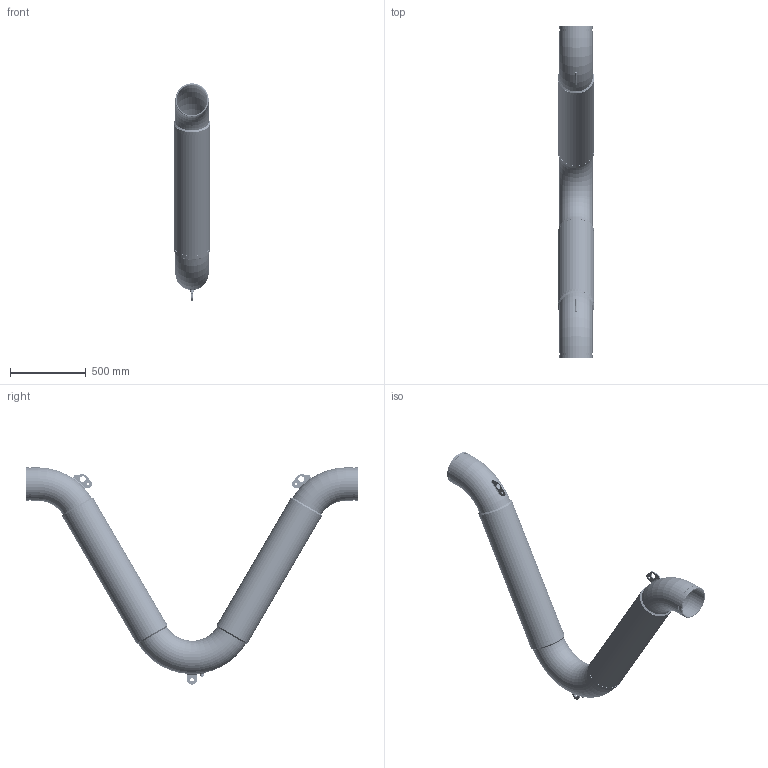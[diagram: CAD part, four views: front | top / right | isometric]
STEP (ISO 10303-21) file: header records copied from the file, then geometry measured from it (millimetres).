
FILE_DESCRIPTION((''),'2;1');
FILE_NAME('\\Mleuckt7400\cad-proe_solids2\WEBSITE FILES 05.22.13\STEP\VGWN\VGWN-8.stp','2013-07-23T10:48:33',('rramoutar'),(''),'Autodesk Inventor 2012','Autodesk Inventor 2012','');
FILE_SCHEMA(('AUTOMOTIVE_DESIGN { 1 0 10303 214 1 1 1 1 }'));
Length unit declared in the file: inch
Products named in the file (12): A-30592-3 VGN 8 inch.iam (LevelofDetail1); A-30592-3 VGN 8 inch.iam (LevelofDetail1)_Welds; A-30592-3 ELBOW 120 DEG FOR 8 INCH VGN; A-28696-2 SUPORT CLIP VGN,VFL 6INCH & 8INCH; A-30713 A36 STEEL PLUG 0.5 inch; A-30713 A36 STEEL COUPLING 0.5 inch; A-29799-1 CLIP VGN,VFL 5 TO 12 INCH; A-30592-3 VGN 8.0 INCH NIPPLE; A-30592-3 ELBOW 60 DEG FOR 8 INCH VGN; A-29781-7 8.0 inch braid collar; A-29781-7 VGN 8.0 inch STAINLESS STEEL HOSE; A-30592-3 VGN 8 inch BRAID
Assembly tree (19 placements, depth 2):
  A-30592-3 VGN 8 inch.iam (LevelofDetail1)
    A-30592-3 VGN 8 inch.iam (LevelofDetail1)_Welds
    A-30592-3 ELBOW 120 DEG FOR 8 INCH VGN
    A-28696-2 SUPORT CLIP VGN,VFL 6INCH & 8INCH
    A-30713 A36 STEEL PLUG 0.5 inch
    A-30713 A36 STEEL COUPLING 0.5 inch
    A-29799-1 CLIP VGN,VFL 5 TO 12 INCH  x2
    A-30592-3 VGN 8.0 INCH NIPPLE  x2
    A-30592-3 ELBOW 60 DEG FOR 8 INCH VGN  x2
    A-29781-7 8.0 inch braid collar  x4
    A-29781-7 VGN 8.0 inch STAINLESS STEEL HOSE  x2
    A-30592-3 VGN 8 inch BRAID  x2
Bounding box: 238.64 x 2184.4 x 1430.34 mm (x, y, z)
Volume: 10723663.2 mm3; surface area: 12933224.8 mm2
Topology: 172 solids, 172 shells, 1905 faces, 3526 edges, 1962 vertices
Faces by surface type: torus 894, cone 588, plane 368, cylinder 40, bspline 15
Full cylindrical faces by diameter (mm): 15.875 x2, 18.256 x1, 21.336 x2, 22.225 x1, 28.575 x3, 38.1 x2, 202.717 x2, 214.401 x2, 219.075 x4, 234.95 x2, 235.966 x6, 238.347 x4
Entity records: 29677 total; most frequent: CARTESIAN_POINT 11789, DIRECTION 3947, ORIENTED_EDGE 2134, AXIS2_PLACEMENT_3D 1951, EDGE_LOOP 1922, EDGE_CURVE 1067, VERTEX_POINT 1021, FACE_OUTER_BOUND 985
